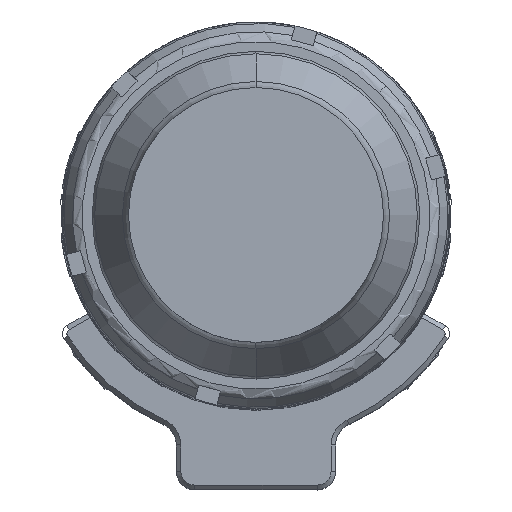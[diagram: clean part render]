
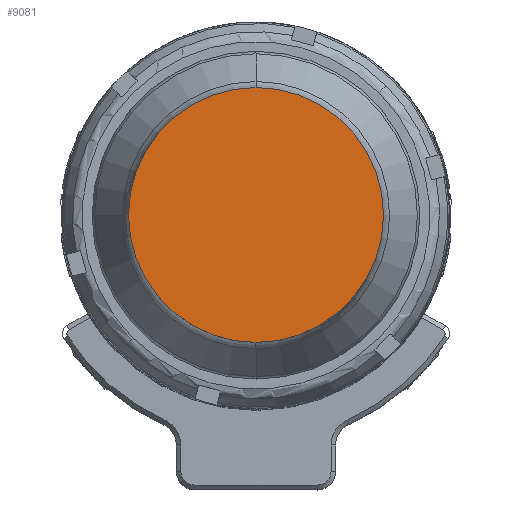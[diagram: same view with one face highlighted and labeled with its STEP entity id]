
A CAD part, top view. The second image highlights one B-rep face of the part: STEP entity #9081.
In plain terms, the highlighted planar face has unit normal (0, 0, 1).
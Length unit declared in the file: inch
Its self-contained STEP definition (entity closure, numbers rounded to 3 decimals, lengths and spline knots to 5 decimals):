
#8804=CARTESIAN_POINT('',(-0.00118,0.,13.151));
#8805=DIRECTION('',(0.,0.,1.));
#8806=DIRECTION('',(0.,1.,0.));
#8807=AXIS2_PLACEMENT_3D('',#8804,#8805,#8806);
#8846=CARTESIAN_POINT('',(-0.00118,0.,13.151));
#8847=DIRECTION('',(0.,0.,-1.));
#8848=DIRECTION('',(0.,1.,0.));
#8849=AXIS2_PLACEMENT_3D('',#8846,#8847,#8848);
#8977=CARTESIAN_POINT('',(-0.00118,1.4,13.151));
#8978=CARTESIAN_POINT('',(-0.00118,-1.4,13.151));
#8979=VERTEX_POINT('',#8977);
#8980=VERTEX_POINT('',#8978);
#9071=CARTESIAN_POINT('',(-0.00118,0.,13.151));
#9072=DIRECTION('',(0.,0.,1.));
#9073=DIRECTION('',(0.,-1.,0.));
#9074=AXIS2_PLACEMENT_3D('',#9071,#9072,#9073);
#9075=PLANE('',#9074);
#9076=ORIENTED_EDGE('',*,*,#9064,.F.);
#9078=ORIENTED_EDGE('',*,*,#9077,.T.);
#9079=EDGE_LOOP('',(#9076,#9078));
#9080=FACE_OUTER_BOUND('',#9079,.F.);
#9081=ADVANCED_FACE('',(#9080),#9075,.T.);
#8808=CIRCLE('',#8807,1.4);
#8850=CIRCLE('',#8849,1.4);
#9064=EDGE_CURVE('',#8979,#8980,#8808,.T.);
#9077=EDGE_CURVE('',#8979,#8980,#8850,.T.);
